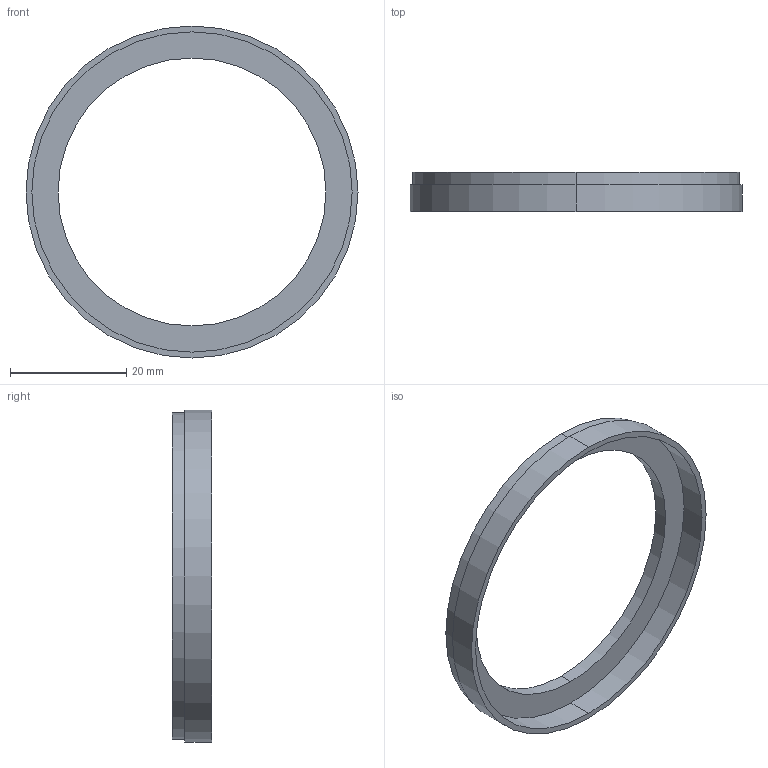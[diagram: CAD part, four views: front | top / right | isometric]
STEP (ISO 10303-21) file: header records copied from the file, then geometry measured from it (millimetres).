
FILE_DESCRIPTION (( 'STEP AP214' ), '1' );
FILE_NAME ('SD55-46.STEP', '2019-04-03T14:58:47', ( '' ), ( '' ), 'SwSTEP 2.0', 'SolidWorks 2019', '' );
FILE_SCHEMA (( 'AUTOMOTIVE_DESIGN' ));
Length unit declared in the file: millimetre
Products named in the file (1): SD55-46
Bounding box: 57 x 6.7 x 57 mm (x, y, z)
Volume: 2670.1 mm3; surface area: 4064.1 mm2
Topology: 1 solids, 1 shells, 12 faces, 24 edges, 16 vertices
Faces by surface type: cylinder 8, plane 4
Entity records: 362 total; most frequent: DIRECTION 66, CARTESIAN_POINT 53, ORIENTED_EDGE 48, AXIS2_PLACEMENT_3D 29, EDGE_CURVE 24, VERTEX_POINT 16, EDGE_LOOP 16, CIRCLE 16
